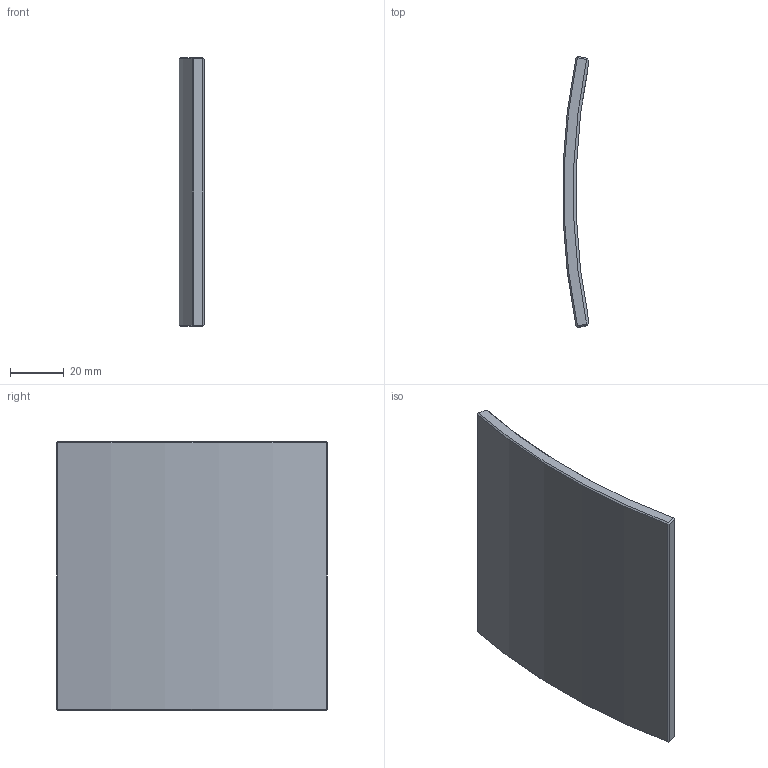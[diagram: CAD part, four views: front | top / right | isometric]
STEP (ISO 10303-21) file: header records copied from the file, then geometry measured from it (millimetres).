
FILE_DESCRIPTION(/* description */ ('X-ray mirror segment - 5mm thickness'),/* implementation_level */ '2;1');
FILE_NAME(/* name */ 'OSIP_solid_mirror_segment_0.stp',/* time_stamp */ '2025-09-24T12:21:16+01:00',/* author */ ('thc85394'),/* organization */ ('N/A - Go to Custom Tab'),/* preprocessor_version */ 'ST-DEVELOPER v20',/* originating_system */ 'Autodesk Inventor 2024',/* authorisation */ '');
FILE_SCHEMA (('AUTOMOTIVE_DESIGN { 1 0 10303 214 3 1 1 }'));
Length unit declared in the file: millimetre
Products named in the file (1): 00042974
Bounding box: 9.66 x 100.81 x 100 mm (x, y, z)
Volume: 50096.1 mm3; surface area: 21789.5 mm2
Topology: 1 solids, 1 shells, 65 faces, 139 edges, 77 vertices
Faces by surface type: plane 24, cylinder 23, torus 7, sphere 7, cone 4
Entity records: 1755 total; most frequent: DIRECTION 318, CARTESIAN_POINT 306, ORIENTED_EDGE 278, EDGE_CURVE 139, AXIS2_PLACEMENT_3D 123, VERTEX_POINT 77, LINE 72, VECTOR 72
